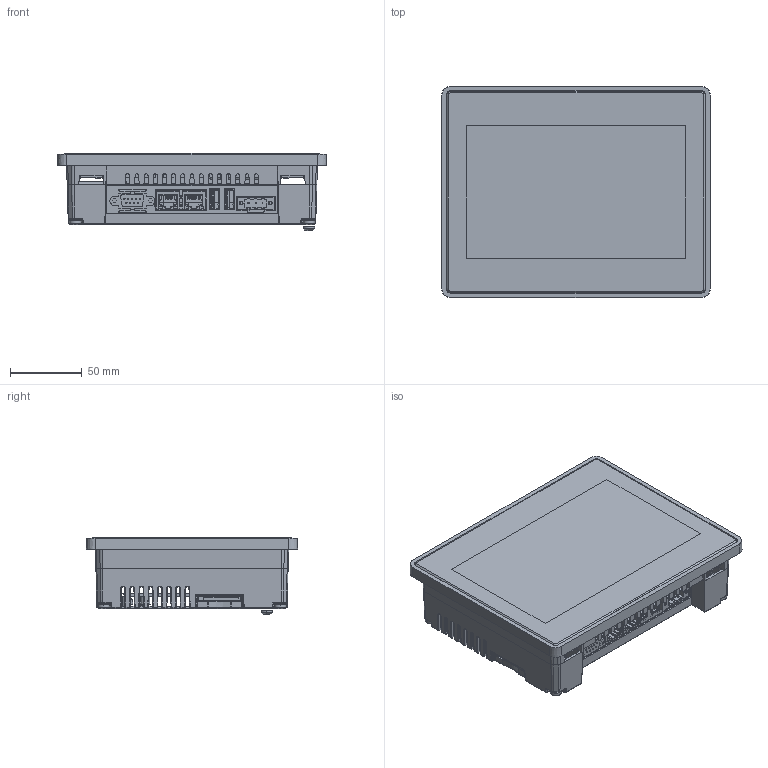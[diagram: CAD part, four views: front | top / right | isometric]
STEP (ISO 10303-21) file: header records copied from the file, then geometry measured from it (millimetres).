
FILE_DESCRIPTION (( 'STEP AP203' ), '1' );
FILE_NAME ('HM507.STEP', '2013-04-30T07:03:16', ( '' ), ( '' ), 'SwSTEP 2.0', 'SolidWorks 2010', '' );
FILE_SCHEMA (( 'CONFIG_CONTROL_DESIGN' ));
Length unit declared in the file: millimetre
Products named in the file (1): HM507
Bounding box: 187.42 x 147.42 x 53.99 mm (x, y, z)
Surface area: 234684.9 mm2 (no closed solid volume)
Topology: 0 solids, 100 shells, 2031 faces, 9340 edges, 7007 vertices
Faces by surface type: plane 921, cylinder 683, bspline 128, cone 126, torus 123, sphere 50
Entity records: 101483 total; most frequent: CARTESIAN_POINT 30315, DIRECTION 14243, ORIENTED_EDGE 12921, EDGE_CURVE 9339, VERTEX_POINT 7007, LINE 6119, VECTOR 6119, AXIS2_PLACEMENT_3D 4062
